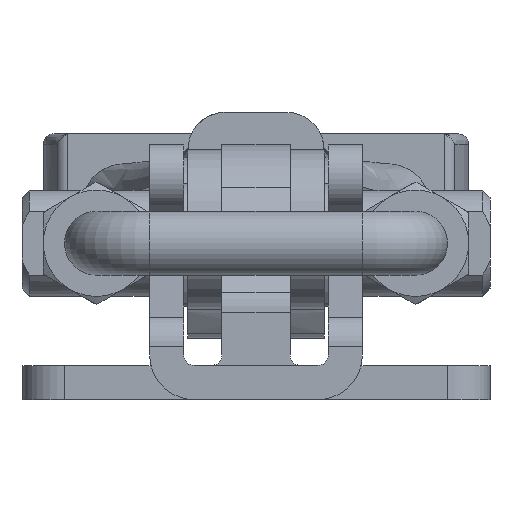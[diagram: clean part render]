
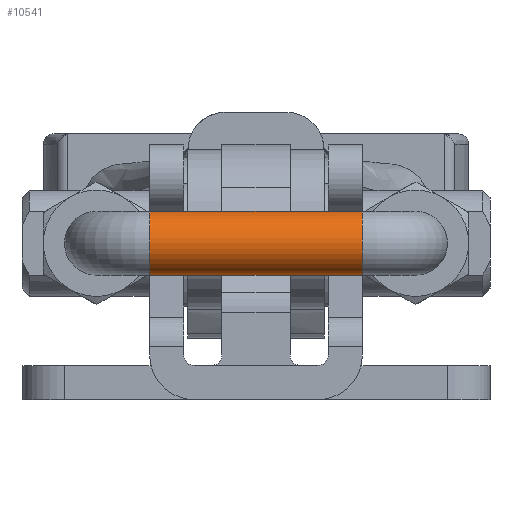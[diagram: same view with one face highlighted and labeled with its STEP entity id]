
A CAD part, front view. The second image highlights one B-rep face of the part: STEP entity #10541.
In plain terms, the highlighted cylindrical face has radius 3 mm (diameter 6 mm), a partial arc.
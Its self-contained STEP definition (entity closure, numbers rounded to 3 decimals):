
#10465=CARTESIAN_POINT('Cartesian Point',(10.,-60.031,11.7)) ;
#10467=CARTESIAN_POINT('Cartesian Point',(10.,-60.031,17.7)) ;
#10487=CARTESIAN_POINT('Axis2P3D Location',(10.,-60.031,14.7)) ;
#10499=CARTESIAN_POINT('Axis2P3D Location',(-10.,-60.031,14.7)) ;
#10508=CARTESIAN_POINT('Cartesian Point',(-10.,-60.031,17.7)) ;
#10510=CARTESIAN_POINT('Cartesian Point',(-10.,-60.031,11.7)) ;
#10513=CARTESIAN_POINT('Line Origine',(0.,-60.031,17.7)) ;
#10518=CARTESIAN_POINT('Line Origine',(0.,-60.031,11.7)) ;
#10530=CARTESIAN_POINT('Axis2P3D Location',(-10.,-60.031,14.7)) ;
#10488=DIRECTION('Axis2P3D Direction',(-1.,0.,0.)) ;
#10500=DIRECTION('Axis2P3D Direction',(1.,0.,0.)) ;
#10501=DIRECTION('Axis2P3D XDirection',(0.,0.,1.)) ;
#10514=DIRECTION('Vector Direction',(1.,0.,0.)) ;
#10519=DIRECTION('Vector Direction',(1.,0.,0.)) ;
#10531=DIRECTION('Axis2P3D Direction',(1.,0.,0.)) ;
#10489=AXIS2_PLACEMENT_3D('Circle Axis2P3D',#10487,#10488,$) ;
#10502=AXIS2_PLACEMENT_3D('Cylinder Axis2P3D',#10499,#10500,#10501) ;
#10532=AXIS2_PLACEMENT_3D('Circle Axis2P3D',#10530,#10531,$) ;
#10536=ORIENTED_EDGE('Oriented Edge',*,*,#10534,.F.) ;
#10537=ORIENTED_EDGE('Oriented Edge',*,*,#10522,.T.) ;
#10538=ORIENTED_EDGE('Oriented Edge',*,*,#10491,.F.) ;
#10539=ORIENTED_EDGE('Oriented Edge',*,*,#10517,.F.) ;
#10515=VECTOR('Line Direction',#10514,1.) ;
#10520=VECTOR('Line Direction',#10519,1.) ;
#10541=ADVANCED_FACE('',(#10540),#10503,.T.) ;
#10490=CIRCLE('generated circle',#10489,3.) ;
#10533=CIRCLE('generated circle',#10532,3.) ;
#10503=CYLINDRICAL_SURFACE('generated cylinder',#10502,3.) ;
#10491=EDGE_CURVE('',#10468,#10466,#10490,.F.) ;
#10517=EDGE_CURVE('',#10509,#10468,#10516,.T.) ;
#10522=EDGE_CURVE('',#10511,#10466,#10521,.T.) ;
#10534=EDGE_CURVE('',#10511,#10509,#10533,.F.) ;
#10535=EDGE_LOOP('Oriented Loop',(#10536,#10537,#10538,#10539)) ;
#10540=FACE_OUTER_BOUND('Face Bound',#10535,.T.) ;
#10516=LINE('Line',#10513,#10515) ;
#10521=LINE('Line',#10518,#10520) ;
#10466=VERTEX_POINT('Vertex Point',#10465) ;
#10468=VERTEX_POINT('Vertex Point',#10467) ;
#10509=VERTEX_POINT('Vertex Point',#10508) ;
#10511=VERTEX_POINT('Vertex Point',#10510) ;
